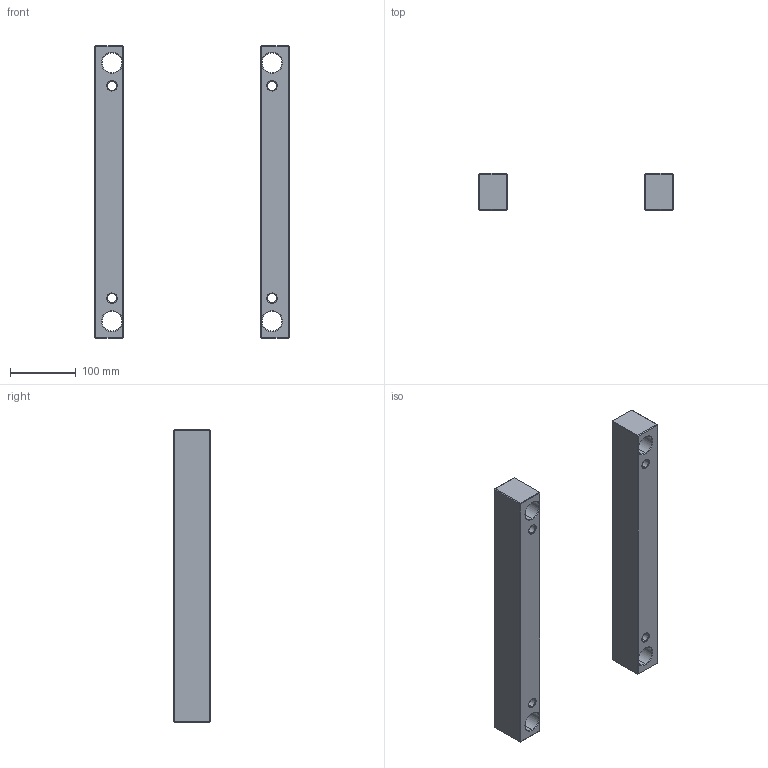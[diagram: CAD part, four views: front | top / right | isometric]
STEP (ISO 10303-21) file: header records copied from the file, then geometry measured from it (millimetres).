
FILE_DESCRIPTION (( 'STEP AP214' ), '1' );
FILE_NAME ('ESP-EU-296X446x56.STEP', '2020-04-15T17:22:53', ( 'August' ), ( '' ), 'SwSTEP 2.0', 'SolidWorks 2018', '' );
FILE_SCHEMA (( 'AUTOMOTIVE_DESIGN' ));
Length unit declared in the file: millimetre
Products named in the file (1): ESP-EU-296X446x56
Bounding box: 296 x 56 x 446 mm (x, y, z)
Volume: 1952378.6 mm3; surface area: 207138.1 mm2
Topology: 2 solids, 2 shells, 100 faces, 224 edges, 120 vertices
Faces by surface type: plane 52, cone 32, cylinder 16
Entity records: 2751 total; most frequent: DIRECTION 498, ORIENTED_EDGE 448, CARTESIAN_POINT 445, EDGE_CURVE 224, AXIS2_PLACEMENT_3D 173, VECTOR 152, LINE 152, VERTEX_POINT 120
